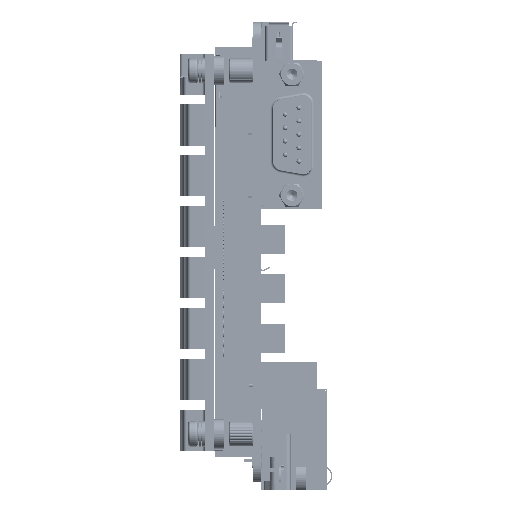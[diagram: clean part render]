
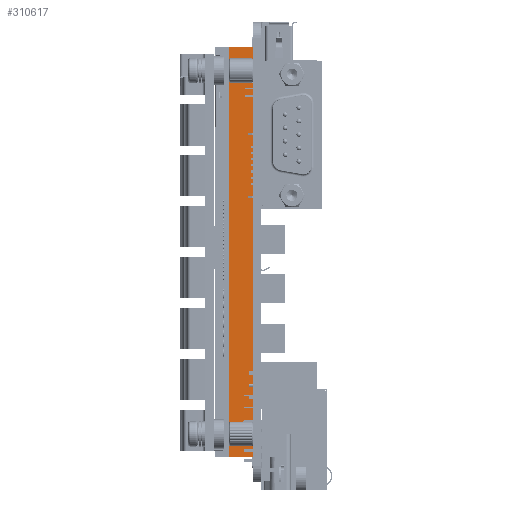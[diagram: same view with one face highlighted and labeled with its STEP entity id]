
A CAD part, left-side view. The second image highlights one B-rep face of the part: STEP entity #310617.
In plain terms, the highlighted planar face has unit normal (-1, 0, 0) as drawn and (1, 0, 0) by its records, which use the part's own axes.
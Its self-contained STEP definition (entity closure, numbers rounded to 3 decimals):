
#309714=DIRECTION('',(0.,-1.,0.));
#309715=VECTOR('',#309714,5.);
#309716=CARTESIAN_POINT('',(4.45,5.,42.3));
#309717=LINE('',#309716,#309715);
#309921=DIRECTION('',(0.,-1.,0.));
#309922=VECTOR('',#309921,5.);
#309923=CARTESIAN_POINT('',(4.45,5.,-42.3));
#309924=LINE('',#309923,#309922);
#309925=DIRECTION('',(0.,0.,1.));
#309926=VECTOR('',#309925,84.6);
#309927=CARTESIAN_POINT('',(4.45,0.,-42.3));
#309928=LINE('',#309927,#309926);
#309937=DIRECTION('',(0.,0.,1.));
#309938=VECTOR('',#309937,84.6);
#309939=CARTESIAN_POINT('',(4.45,5.,-42.3));
#309940=LINE('',#309939,#309938);
#310134=CARTESIAN_POINT('',(4.45,0.,42.3));
#310135=VERTEX_POINT('',#310134);
#310136=CARTESIAN_POINT('',(4.45,0.,-42.3));
#310137=VERTEX_POINT('',#310136);
#310188=CARTESIAN_POINT('',(4.45,5.,42.3));
#310189=VERTEX_POINT('',#310188);
#310218=CARTESIAN_POINT('',(4.45,5.,-42.3));
#310219=VERTEX_POINT('',#310218);
#310605=CARTESIAN_POINT('',(4.45,0.,42.3));
#310606=DIRECTION('',(1.,0.,0.));
#310607=DIRECTION('',(0.,0.,-1.));
#310608=AXIS2_PLACEMENT_3D('',#310605,#310606,#310607);
#310609=PLANE('',#310608);
#310611=ORIENTED_EDGE('',*,*,#310610,.F.);
#310612=ORIENTED_EDGE('',*,*,#310455,.T.);
#310613=ORIENTED_EDGE('',*,*,#310279,.T.);
#310614=ORIENTED_EDGE('',*,*,#310329,.F.);
#310615=EDGE_LOOP('',(#310611,#310612,#310613,#310614));
#310616=FACE_OUTER_BOUND('',#310615,.F.);
#310279=EDGE_CURVE('',#310137,#310135,#309928,.T.);
#310329=EDGE_CURVE('',#310189,#310135,#309717,.T.);
#310455=EDGE_CURVE('',#310219,#310137,#309924,.T.);
#310610=EDGE_CURVE('',#310219,#310189,#309940,.T.);
#310617=ADVANCED_FACE('',(#310616),#310609,.T.);
